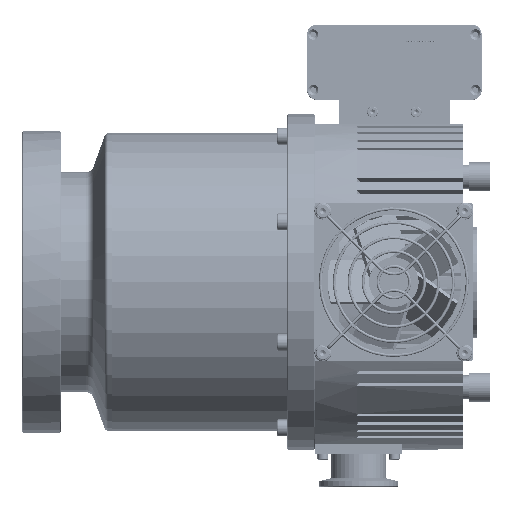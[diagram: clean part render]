
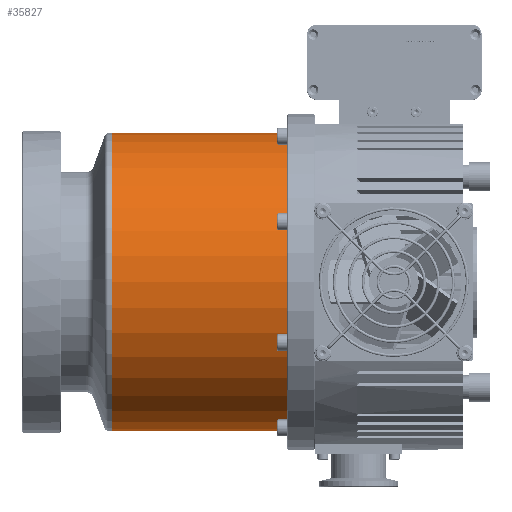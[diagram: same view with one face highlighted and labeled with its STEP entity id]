
A CAD part, left-side view. The second image highlights one B-rep face of the part: STEP entity #35827.
In plain terms, the highlighted cylindrical face has radius 75 mm (diameter 150 mm), a full revolution.
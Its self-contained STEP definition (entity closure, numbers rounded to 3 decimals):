
#4121 = CARTESIAN_POINT ( 'NONE',  ( 0., 0.5, 0. ) ) ;
#10976 = FACE_OUTER_BOUND ( 'NONE', #38713, .T. ) ;
#15833 = VERTEX_POINT ( 'NONE', #46579 ) ;
#26898 = CYLINDRICAL_SURFACE ( 'NONE', #82142, 75. ) ;
#31365 = DIRECTION ( 'NONE',  ( 0., 1., 0. ) ) ;
#35827 = ADVANCED_FACE ( 'NONE', ( #10976, #183515 ), #26898, .T. ) ;
#37326 = CIRCLE ( 'NONE', #178737, 75. ) ;
#38713 = EDGE_LOOP ( 'NONE', ( #125814 ) ) ;
#42289 = EDGE_CURVE ( 'NONE', #159076, #159076, #37326, .T. ) ;
#46335 = CIRCLE ( 'NONE', #93247, 75. ) ;
#46579 = CARTESIAN_POINT ( 'NONE',  ( 0., 94.5, 75. ) ) ;
#69697 = EDGE_CURVE ( 'NONE', #15833, #15833, #46335, .T. ) ;
#80087 = DIRECTION ( 'NONE',  ( 0., -1., 0. ) ) ;
#82142 = AXIS2_PLACEMENT_3D ( 'NONE', #152775, #31365, #182408 ) ;
#93247 = AXIS2_PLACEMENT_3D ( 'NONE', #185666, #80087, #97105 ) ;
#97105 = DIRECTION ( 'NONE',  ( 0., 0., 1. ) ) ;
#105123 = DIRECTION ( 'NONE',  ( 0., 0., 1. ) ) ;
#105697 = CARTESIAN_POINT ( 'NONE',  ( 0., 0.5, 75. ) ) ;
#125814 = ORIENTED_EDGE ( 'NONE', *, *, #69697, .T. ) ;
#150072 = EDGE_LOOP ( 'NONE', ( #187557 ) ) ;
#152775 = CARTESIAN_POINT ( 'NONE',  ( 0., 162.98, 0. ) ) ;
#159076 = VERTEX_POINT ( 'NONE', #105697 ) ;
#178737 = AXIS2_PLACEMENT_3D ( 'NONE', #4121, #209616, #105123 ) ;
#182408 = DIRECTION ( 'NONE',  ( 0., 0., 1. ) ) ;
#183515 = FACE_OUTER_BOUND ( 'NONE', #150072, .T. ) ;
#185666 = CARTESIAN_POINT ( 'NONE',  ( 0., 94.5, 0. ) ) ;
#187557 = ORIENTED_EDGE ( 'NONE', *, *, #42289, .T. ) ;
#209616 = DIRECTION ( 'NONE',  ( 0., 1., 0. ) ) ;
